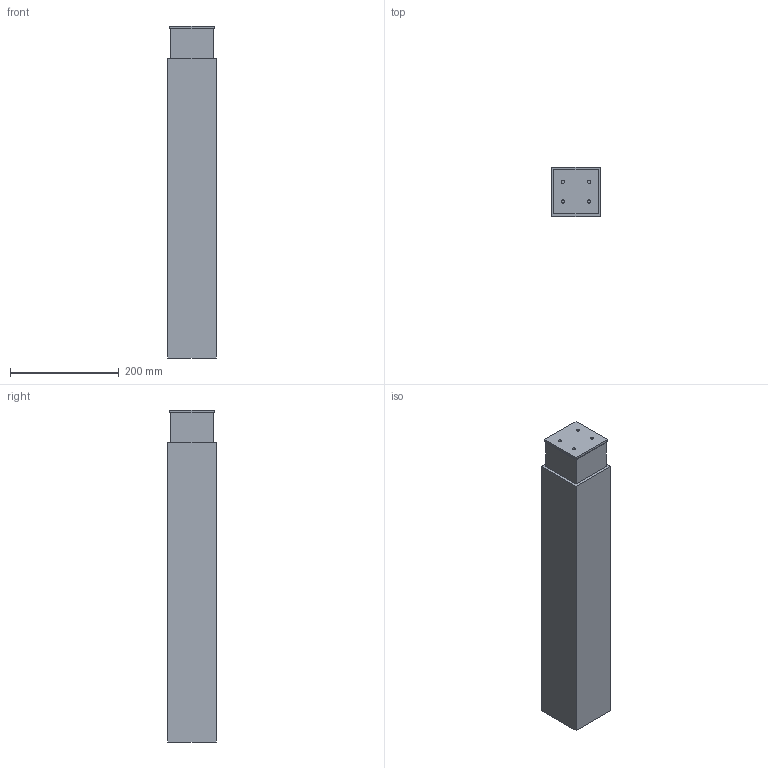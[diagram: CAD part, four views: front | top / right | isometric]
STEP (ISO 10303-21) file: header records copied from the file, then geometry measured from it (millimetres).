
FILE_DESCRIPTION( ( '' ), '1' );
FILE_NAME( 'C:/Users/dhek/Desktop/New folder/C_6/Legadrive/9243045.stp', '2018-02-20T11:51:33', ( '' ), ( '' ), ' ', ' ', ' ' );
FILE_SCHEMA( ( 'CONFIG_CONTROL_DESIGN' ) );
Length unit declared in the file: millimetre
Products named in the file (1): 1
Bounding box: 90 x 90 x 610 mm (x, y, z)
Volume: 4824409 mm3; surface area: 234869.8 mm2
Topology: 1 solids, 1 shells, 40 faces, 84 edges, 56 vertices
Faces by surface type: plane 24, cylinder 16
Entity records: 1124 total; most frequent: DIRECTION 198, CARTESIAN_POINT 181, ORIENTED_EDGE 168, EDGE_CURVE 84, AXIS2_PLACEMENT_3D 73, VERTEX_POINT 56, LINE 52, VECTOR 52
